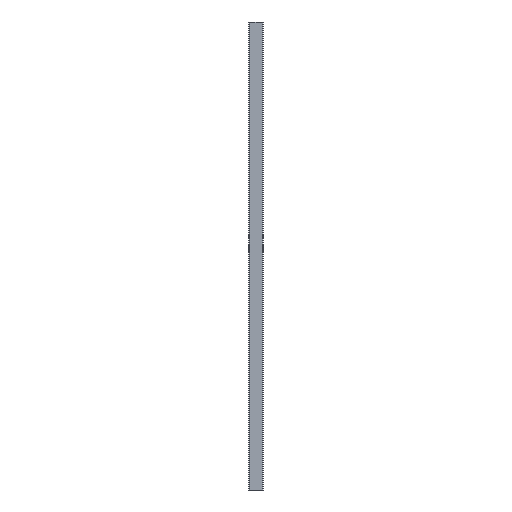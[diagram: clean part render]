
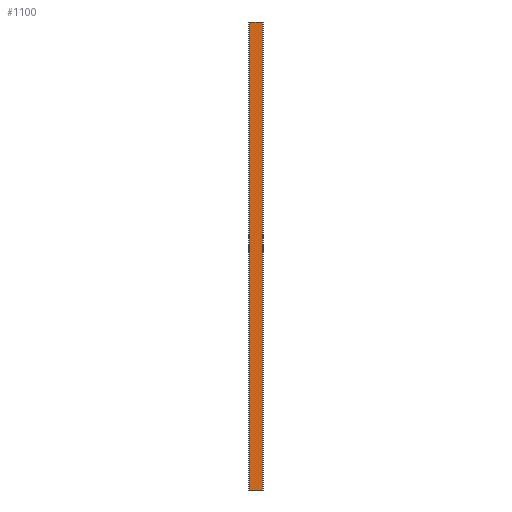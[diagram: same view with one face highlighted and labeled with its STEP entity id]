
A CAD part, left-side view. The second image highlights one B-rep face of the part: STEP entity #1100.
In plain terms, the highlighted planar face has unit normal (-1, 0, 0).
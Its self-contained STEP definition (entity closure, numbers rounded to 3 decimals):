
#119 = ORIENTED_EDGE ( 'NONE', *, *, #962, .F. ) ;
#129 = VECTOR ( 'NONE', #531, 1000. ) ;
#139 = VERTEX_POINT ( 'NONE', #1243 ) ;
#232 = EDGE_CURVE ( 'NONE', #1223, #817, #1896, .T. ) ;
#243 = EDGE_LOOP ( 'NONE', ( #509, #119, #396, #249 ) ) ;
#249 = ORIENTED_EDGE ( 'NONE', *, *, #1920, .T. ) ;
#289 = DIRECTION ( 'NONE',  ( -1., 0., 0. ) ) ;
#396 = ORIENTED_EDGE ( 'NONE', *, *, #1169, .T. ) ;
#471 = DIRECTION ( 'NONE',  ( 0., -1., 0. ) ) ;
#504 = VECTOR ( 'NONE', #471, 1000. ) ;
#509 = ORIENTED_EDGE ( 'NONE', *, *, #232, .F. ) ;
#531 = DIRECTION ( 'NONE',  ( 0., 0., 1. ) ) ;
#557 = CARTESIAN_POINT ( 'NONE',  ( 2.31, 48., 0. ) ) ;
#576 = PLANE ( 'NONE',  #1503 ) ;
#817 = VERTEX_POINT ( 'NONE', #1387 ) ;
#864 = FACE_OUTER_BOUND ( 'NONE', #243, .T. ) ;
#936 = LINE ( 'NONE', #1648, #504 ) ;
#962 = EDGE_CURVE ( 'NONE', #1423, #1223, #1881, .T. ) ;
#1079 = CARTESIAN_POINT ( 'NONE',  ( 2.31, 48., 1000. ) ) ;
#1100 = ADVANCED_FACE ( 'NONE', ( #864 ), #576, .T. ) ;
#1133 = DIRECTION ( 'NONE',  ( 0., 0., 1. ) ) ;
#1169 = EDGE_CURVE ( 'NONE', #1423, #139, #936, .T. ) ;
#1176 = VECTOR ( 'NONE', #1595, 1000. ) ;
#1223 = VERTEX_POINT ( 'NONE', #1079 ) ;
#1243 = CARTESIAN_POINT ( 'NONE',  ( 2.31, 22.004, 0. ) ) ;
#1278 = CARTESIAN_POINT ( 'NONE',  ( 2.31, 48., 0. ) ) ;
#1387 = CARTESIAN_POINT ( 'NONE',  ( 2.31, 22.004, 1000. ) ) ;
#1423 = VERTEX_POINT ( 'NONE', #1278 ) ;
#1451 = DIRECTION ( 'NONE',  ( 0., -1., 0. ) ) ;
#1503 = AXIS2_PLACEMENT_3D ( 'NONE', #1630, #289, #1451 ) ;
#1581 = CARTESIAN_POINT ( 'NONE',  ( 2.31, 22.004, 0. ) ) ;
#1595 = DIRECTION ( 'NONE',  ( 0., -1., 0. ) ) ;
#1597 = VECTOR ( 'NONE', #1133, 1000. ) ;
#1630 = CARTESIAN_POINT ( 'NONE',  ( 2.31, 48., 0. ) ) ;
#1648 = CARTESIAN_POINT ( 'NONE',  ( 2.31, 48., 0. ) ) ;
#1712 = LINE ( 'NONE', #1581, #129 ) ;
#1881 = LINE ( 'NONE', #557, #1597 ) ;
#1896 = LINE ( 'NONE', #1914, #1176 ) ;
#1914 = CARTESIAN_POINT ( 'NONE',  ( 2.31, 48., 1000. ) ) ;
#1920 = EDGE_CURVE ( 'NONE', #139, #817, #1712, .T. ) ;
